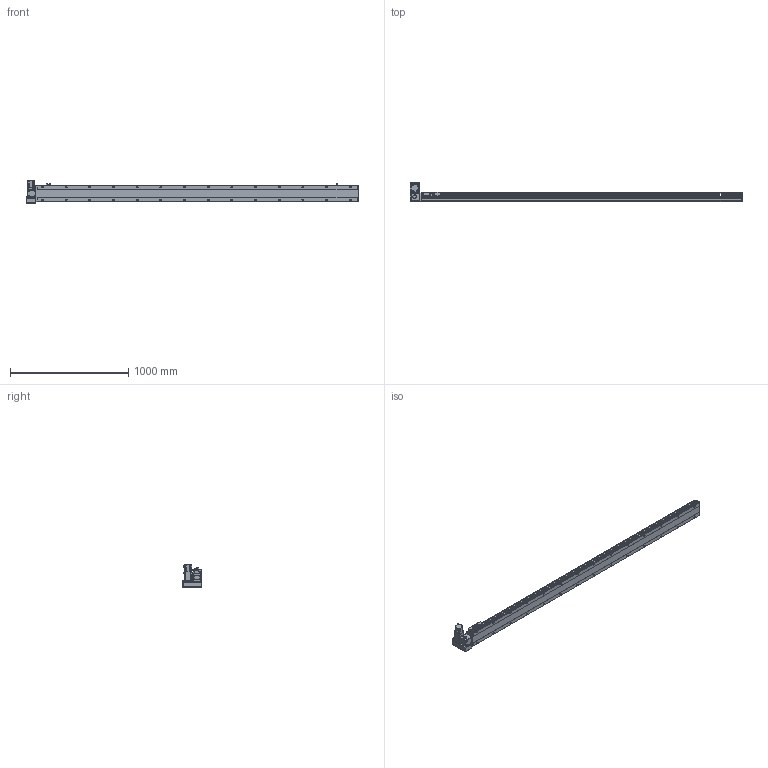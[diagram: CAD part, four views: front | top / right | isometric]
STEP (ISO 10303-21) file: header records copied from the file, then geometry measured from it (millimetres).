
FILE_DESCRIPTION( ( 'STEP AP214' ), '1' );
FILE_NAME( 'x:/temp/worker_2/temp/exporttempdir_6476_486_9PWnI/format_0/PBS140-P40-S2450-LU-T40-C1-N(0).stp', '2022-06-07T05:18:56', ( 'License CC BY-ND 4.0' ), ( 'CADENAS' ), ' ', 'PARTsolutions', ' ' );
FILE_SCHEMA( ( 'AUTOMOTIVE_DESIGN { 1 0 10303 214 1 1 1 1 }' ) );
Length unit declared in the file: millimetre
Products named in the file (7): PBS140-P40-S2450-LU-T40-C1-N(0); _PBS140-S2450()_body; _PBS140T-LU_motors; _T40-p1; _PBS140_sliser; _PBS140_plant; _PBS140_sensor
Assembly tree (8 placements, depth 2):
  PBS140-P40-S2450-LU-T40-C1-N(0)
    _PBS140-S2450()_body
    _PBS140T-LU_motors
    _T40-p1
    _PBS140_sliser
    _PBS140_plant
    _PBS140_sensor  x3
Bounding box: 2804 x 162.5 x 189.7 mm (x, y, z)
Volume: 12592324 mm3; surface area: 2144782.7 mm2
Topology: 8 solids, 8 shells, 1171 faces, 3076 edges, 2009 vertices
Faces by surface type: plane 728, cylinder 379, cone 54, sphere 8, torus 2
Full cylindrical faces by diameter (mm): 3.242 x4, 4 x2, 4.134 x4, 4.4 x8, 4.5 x2, 4.8 x4, 4.917 x36, 5.5 x7, 6 x2, 7 x30, 7.5 x8, 8 x12, 8.5 x4, 10.5 x28, 14 x1, 30 x2, 50 x2
Entity records: 43141 total; most frequent: CARTESIAN_POINT 7259, DIRECTION 5617, ORIENTED_EDGE 5272, EDGE_CURVE 2636, AXIS2_PLACEMENT_3D 1987, VERTEX_POINT 1845, LINE 1643, VECTOR 1643
